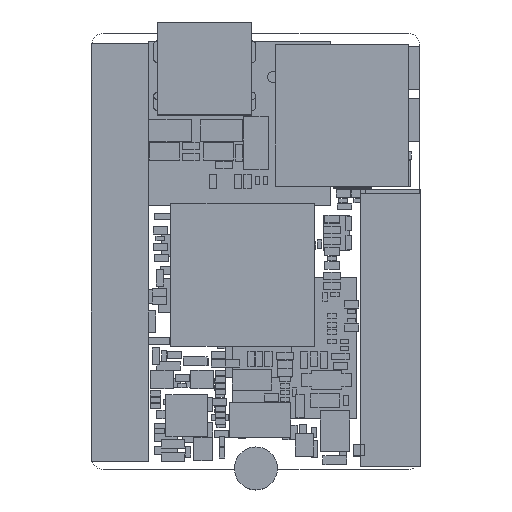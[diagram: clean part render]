
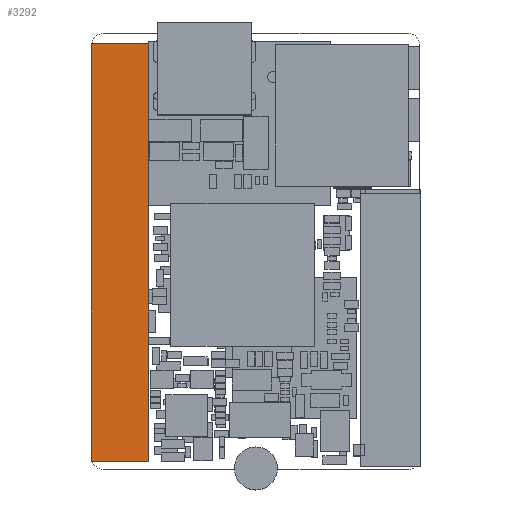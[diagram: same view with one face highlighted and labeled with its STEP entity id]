
A CAD part, top view. The second image highlights one B-rep face of the part: STEP entity #3292.
In plain terms, the highlighted planar face has unit normal (0, 0, 1).
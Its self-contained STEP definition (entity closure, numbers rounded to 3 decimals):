
#2359=FACE_OUTER_BOUND($,#2688,.F.);
#2688=EDGE_LOOP($,(#4972,#4973,#4974,#4975));
#2981=PLANE($,#3741);
#3292=ADVANCED_FACE($,(#2359),#2981,.T.);
#3741=AXIS2_PLACEMENT_3D($,#10417,#8755,$);
#4972=ORIENTED_EDGE($,*,*,#5977,.T.);
#4973=ORIENTED_EDGE($,*,*,#5978,.T.);
#4974=ORIENTED_EDGE($,*,*,#5979,.T.);
#4975=ORIENTED_EDGE($,*,*,#5980,.T.);
#5977=EDGE_CURVE($,#7962,#7963,#7337,.T.);
#5978=EDGE_CURVE($,#7963,#7964,#7338,.T.);
#5979=EDGE_CURVE($,#7964,#7965,#7339,.T.);
#5980=EDGE_CURVE($,#7965,#7962,#7340,.T.);
#6659=VECTOR($,#9253,5.283);
#6660=VECTOR($,#9254,38.303);
#6661=VECTOR($,#9255,5.283);
#6662=VECTOR($,#9256,38.303);
#7337=LINE($,#10416,#6659);
#7338=LINE($,#10417,#6660);
#7339=LINE($,#10418,#6661);
#7340=LINE($,#10419,#6662);
#7962=VERTEX_POINT($,#10416);
#7963=VERTEX_POINT($,#10417);
#7964=VERTEX_POINT($,#10418);
#7965=VERTEX_POINT($,#10419);
#8755=DIRECTION($,(0.,0.,1.));
#9253=DIRECTION($,(0.,1.,0.));
#9254=DIRECTION($,(1.,0.,0.));
#9255=DIRECTION($,(0.,-1.,0.));
#9256=DIRECTION($,(-1.,0.,0.));
#10416=CARTESIAN_POINT('',(-19.152,-2.642,3.81));
#10417=CARTESIAN_POINT('',(-19.152,2.642,3.81));
#10418=CARTESIAN_POINT('',(19.152,2.642,3.81));
#10419=CARTESIAN_POINT('',(19.152,-2.642,3.81));
